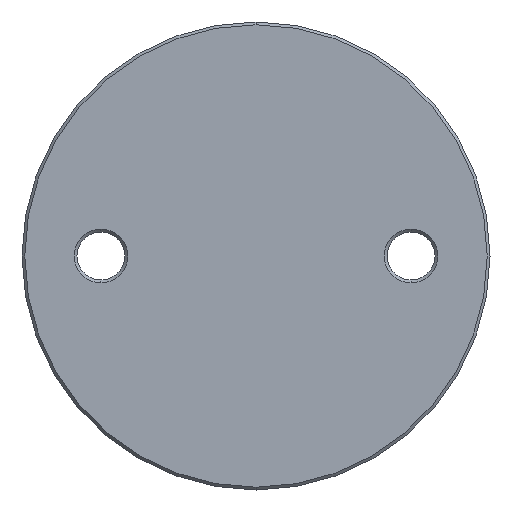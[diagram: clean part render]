
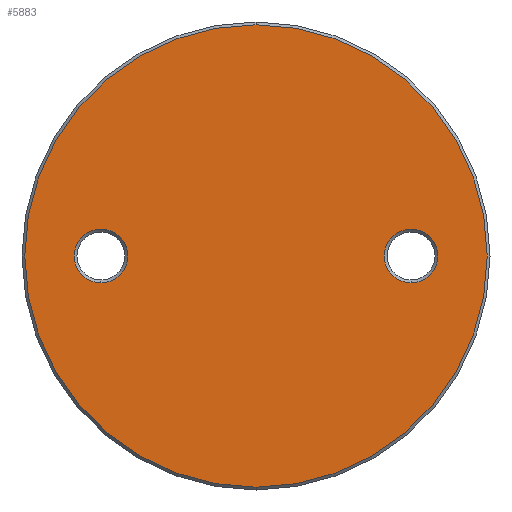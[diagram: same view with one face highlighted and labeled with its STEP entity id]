
A CAD part, front view. The second image highlights one B-rep face of the part: STEP entity #5883.
In plain terms, the highlighted planar face has unit normal (0, -1, 0).
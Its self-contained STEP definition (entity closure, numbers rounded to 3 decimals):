
#269 = AXIS2_PLACEMENT_3D ( 'NONE', #4904, #1890, #799 ) ;
#389 = CIRCLE ( 'NONE', #6522, 41. ) ;
#529 = AXIS2_PLACEMENT_3D ( 'NONE', #2729, #5119, #5194 ) ;
#699 = CARTESIAN_POINT ( 'NONE',  ( 27.5, -3., 0. ) ) ;
#727 = EDGE_LOOP ( 'NONE', ( #5494, #7239 ) ) ;
#799 = DIRECTION ( 'NONE',  ( 0., 0., -1. ) ) ;
#822 = VERTEX_POINT ( 'NONE', #4270 ) ;
#900 = CARTESIAN_POINT ( 'NONE',  ( -27.5, -3., -4.75 ) ) ;
#973 = CARTESIAN_POINT ( 'NONE',  ( -27.5, -3., 0. ) ) ;
#1060 = ORIENTED_EDGE ( 'NONE', *, *, #6025, .T. ) ;
#1067 = CIRCLE ( 'NONE', #5253, 4.75 ) ;
#1317 = VERTEX_POINT ( 'NONE', #5442 ) ;
#1581 = AXIS2_PLACEMENT_3D ( 'NONE', #973, #3321, #5231 ) ;
#1609 = VERTEX_POINT ( 'NONE', #3580 ) ;
#1751 = DIRECTION ( 'NONE',  ( 0., 0., -1. ) ) ;
#1890 = DIRECTION ( 'NONE',  ( 0., -1., 0. ) ) ;
#2274 = EDGE_CURVE ( 'NONE', #1609, #822, #5737, .T. ) ;
#2353 = DIRECTION ( 'NONE',  ( 0., -1., 0. ) ) ;
#2698 = EDGE_CURVE ( 'NONE', #1317, #5570, #1067, .T. ) ;
#2729 = CARTESIAN_POINT ( 'NONE',  ( -27.5, -3., 0. ) ) ;
#2913 = CARTESIAN_POINT ( 'NONE',  ( 0., -3., 41.5 ) ) ;
#2944 = DIRECTION ( 'NONE',  ( 0., -1., 0. ) ) ;
#2953 = CIRCLE ( 'NONE', #1581, 4.75 ) ;
#3085 = DIRECTION ( 'NONE',  ( 0., 1., 0. ) ) ;
#3321 = DIRECTION ( 'NONE',  ( 0., 1., 0. ) ) ;
#3543 = FACE_BOUND ( 'NONE', #4873, .T. ) ;
#3568 = ORIENTED_EDGE ( 'NONE', *, *, #6329, .T. ) ;
#3580 = CARTESIAN_POINT ( 'NONE',  ( 0., -3., -41. ) ) ;
#3610 = EDGE_CURVE ( 'NONE', #6346, #4379, #3822, .T. ) ;
#3624 = AXIS2_PLACEMENT_3D ( 'NONE', #6108, #3085, #4897 ) ;
#3740 = DIRECTION ( 'NONE',  ( 0., 1., 0. ) ) ;
#3822 = CIRCLE ( 'NONE', #529, 4.75 ) ;
#4011 = CIRCLE ( 'NONE', #3624, 4.75 ) ;
#4270 = CARTESIAN_POINT ( 'NONE',  ( 0., -3., 41. ) ) ;
#4379 = VERTEX_POINT ( 'NONE', #6660 ) ;
#4402 = FACE_BOUND ( 'NONE', #7078, .T. ) ;
#4830 = ORIENTED_EDGE ( 'NONE', *, *, #3610, .T. ) ;
#4873 = EDGE_LOOP ( 'NONE', ( #7578, #1060 ) ) ;
#4874 = DIRECTION ( 'NONE',  ( 0., 0., -1. ) ) ;
#4897 = DIRECTION ( 'NONE',  ( 0., 0., -1. ) ) ;
#4904 = CARTESIAN_POINT ( 'NONE',  ( 0., -3., 0. ) ) ;
#4963 = AXIS2_PLACEMENT_3D ( 'NONE', #2913, #2353, #4874 ) ;
#5034 = CARTESIAN_POINT ( 'NONE',  ( 27.5, -3., 4.75 ) ) ;
#5119 = DIRECTION ( 'NONE',  ( 0., 1., 0. ) ) ;
#5194 = DIRECTION ( 'NONE',  ( 0., 0., -1. ) ) ;
#5231 = DIRECTION ( 'NONE',  ( 0., 0., -1. ) ) ;
#5253 = AXIS2_PLACEMENT_3D ( 'NONE', #699, #3740, #5506 ) ;
#5408 = CARTESIAN_POINT ( 'NONE',  ( 0., -3., 0. ) ) ;
#5442 = CARTESIAN_POINT ( 'NONE',  ( 27.5, -3., -4.75 ) ) ;
#5451 = PLANE ( 'NONE',  #4963 ) ;
#5494 = ORIENTED_EDGE ( 'NONE', *, *, #7082, .T. ) ;
#5506 = DIRECTION ( 'NONE',  ( 0., 0., -1. ) ) ;
#5570 = VERTEX_POINT ( 'NONE', #5034 ) ;
#5737 = CIRCLE ( 'NONE', #269, 41. ) ;
#5883 = ADVANCED_FACE ( 'NONE', ( #3543, #4402, #6862 ), #5451, .T. ) ;
#6025 = EDGE_CURVE ( 'NONE', #5570, #1317, #4011, .T. ) ;
#6108 = CARTESIAN_POINT ( 'NONE',  ( 27.5, -3., 0. ) ) ;
#6329 = EDGE_CURVE ( 'NONE', #4379, #6346, #2953, .T. ) ;
#6346 = VERTEX_POINT ( 'NONE', #900 ) ;
#6522 = AXIS2_PLACEMENT_3D ( 'NONE', #5408, #2944, #1751 ) ;
#6660 = CARTESIAN_POINT ( 'NONE',  ( -27.5, -3., 4.75 ) ) ;
#6862 = FACE_OUTER_BOUND ( 'NONE', #727, .T. ) ;
#7078 = EDGE_LOOP ( 'NONE', ( #4830, #3568 ) ) ;
#7082 = EDGE_CURVE ( 'NONE', #822, #1609, #389, .T. ) ;
#7239 = ORIENTED_EDGE ( 'NONE', *, *, #2274, .T. ) ;
#7578 = ORIENTED_EDGE ( 'NONE', *, *, #2698, .T. ) ;
